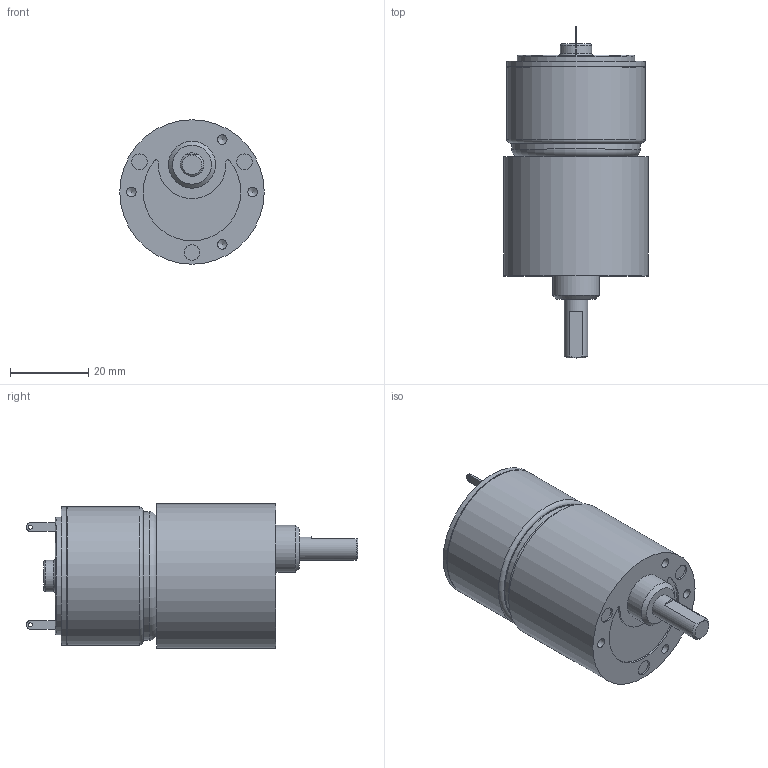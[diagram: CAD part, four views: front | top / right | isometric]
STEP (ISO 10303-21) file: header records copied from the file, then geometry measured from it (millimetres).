
FILE_DESCRIPTION((''),'2;1');
FILE_NAME('C:\Documents and Settings\SSEGAWA\デスクトップ\TP-3526G-KG-6.STP','2013-07-09T17:25:19',('SSEGAWA'),(''),'Autodesk Inventor 2010','Autodesk Inventor 2010','');
FILE_SCHEMA(('CONFIG_CONTROL_DESIGN'));
Length unit declared in the file: millimetre
Products named in the file (3): tp_3526g_kg_6; kg_6; tp_3526g
Assembly tree (2 placements, depth 2):
  tp_3526g_kg_6
    kg_6
    tp_3526g
Bounding box: 37 x 85 x 37 mm (x, y, z)
Volume: 58590.6 mm3; surface area: 11368.1 mm2
Topology: 2 solids, 2 shells, 77 faces, 158 edges, 103 vertices
Faces by surface type: plane 30, cylinder 23, bspline 17, torus 4, cone 3
Full cylindrical faces by diameter (mm): 2 x1, 2.4 x1, 4 x3, 5 x2, 6 x1, 8 x1, 10 x1, 12 x1, 30 x1, 33 x1, 35 x1, 35.4 x2, 37 x1
Entity records: 2095 total; most frequent: CARTESIAN_POINT 645, DIRECTION 303, ORIENTED_EDGE 204, EDGE_LOOP 139, AXIS2_PLACEMENT_3D 138, EDGE_CURVE 102, VERTEX_POINT 87, FACE_OUTER_BOUND 77
